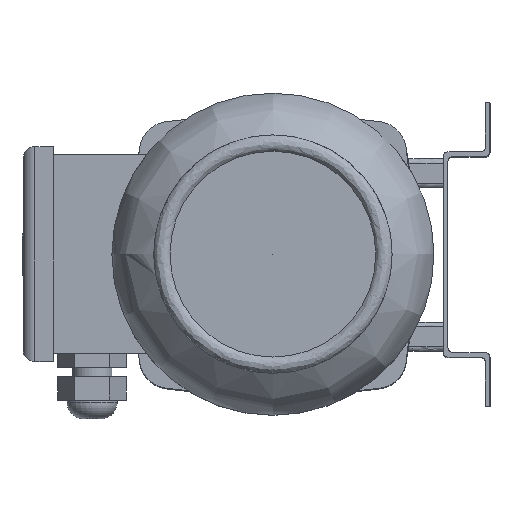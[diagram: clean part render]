
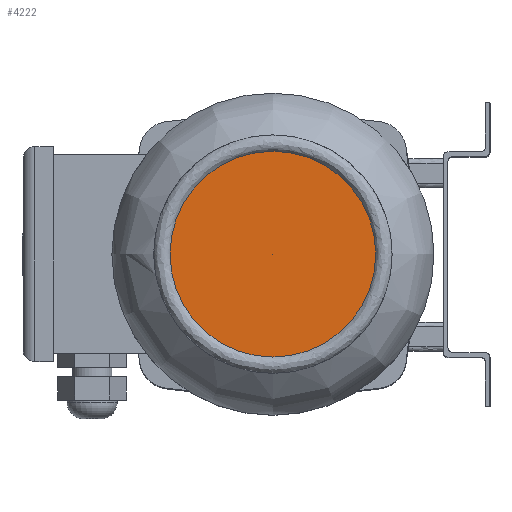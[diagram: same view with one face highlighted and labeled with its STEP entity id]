
A CAD part, top view. The second image highlights one B-rep face of the part: STEP entity #4222.
In plain terms, the highlighted conical face has half-angle 90 degrees and reference radius 0 mm.
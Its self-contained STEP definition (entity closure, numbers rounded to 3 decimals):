
#23=VERTEX_LOOP('',#3052);
#31=CONICAL_SURFACE('',#4538,0.,1.571);
#1242=ORIENTED_EDGE('',*,*,#2450,.F.);
#2450=EDGE_CURVE('',#3051,#3051,#3321,.T.);
#3051=VERTEX_POINT('',#7157);
#3052=VERTEX_POINT('',#7158);
#3321=CIRCLE('',#4539,44.08);
#3470=EDGE_LOOP('',(#1242));
#3804=FACE_BOUND('',#3470,.T.);
#3805=FACE_BOUND('',#23,.T.);
#4222=ADVANCED_FACE('',(#3804,#3805),#31,.F.);
#4538=AXIS2_PLACEMENT_3D('',#7155,#5038,#5039);
#4539=AXIS2_PLACEMENT_3D('',#7156,#5040,#5041);
#5038=DIRECTION('',(0.,0.,1.));
#5039=DIRECTION('',(1.,0.,0.));
#5040=DIRECTION('',(0.,0.,-1.));
#5041=DIRECTION('',(-1.,0.,0.));
#7155=CARTESIAN_POINT('',(0.,0.,350.357));
#7156=CARTESIAN_POINT('',(0.,0.,350.357));
#7157=CARTESIAN_POINT('',(-44.08,0.,350.357));
#7158=CARTESIAN_POINT('',(0.,0.,350.357));
